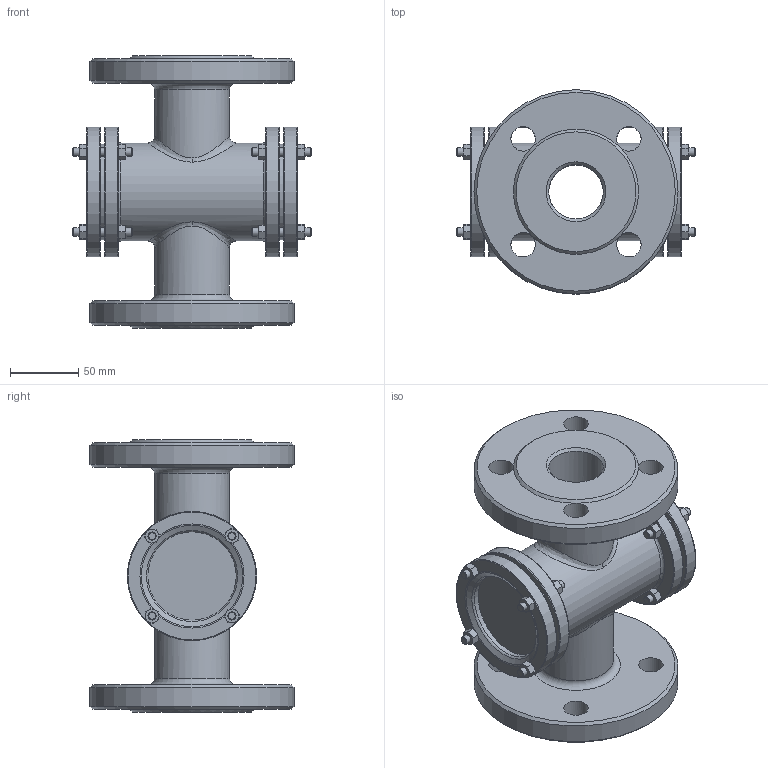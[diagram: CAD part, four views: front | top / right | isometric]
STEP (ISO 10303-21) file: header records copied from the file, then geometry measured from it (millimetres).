
FILE_DESCRIPTION(('STEP AP242'), '1');
FILE_NAME('SG2-34G-F Ñòåêëî ñìîòðîâîå DN.ru Äó40 Ðó40', '', ('UNSPECIFIED'), ('UNSPECIFIED'), 'C3D Converter', 'C3D Toolkit', '');
FILE_SCHEMA(('AP242_MANAGED_MODEL_BASED_3D_ENGINEERING_MIM_LF { 1 0 10303 442 1 1 4 }'));
Length unit declared in the file: millimetre
Products named in the file (1): SG2-34G-F
Bounding box: 175 x 150 x 200 mm (x, y, z)
Volume: 948653.4 mm3; surface area: 218540.5 mm2
Topology: 1 solids, 1 shells, 517 faces, 1240 edges, 755 vertices
Faces by surface type: cone 218, plane 191, cylinder 55, bspline 31, torus 22
Full cylindrical faces by diameter (mm): 6 x24, 18 x8, 40 x2, 55 x2, 65 x3, 70 x2, 72 x1, 95 x4, 150 x2
Entity records: 31955 total; most frequent: CARTESIAN_POINT 19343, ORIENTED_EDGE 2286, DIRECTION 2066, EDGE_CURVE 1143, AXIS2_PLACEMENT_3D 936, VERTEX_POINT 749, EDGE_LOOP 678, FACE_BOUND 576
